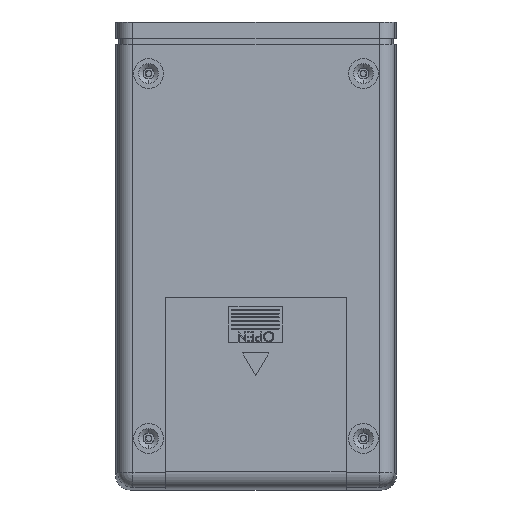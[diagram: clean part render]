
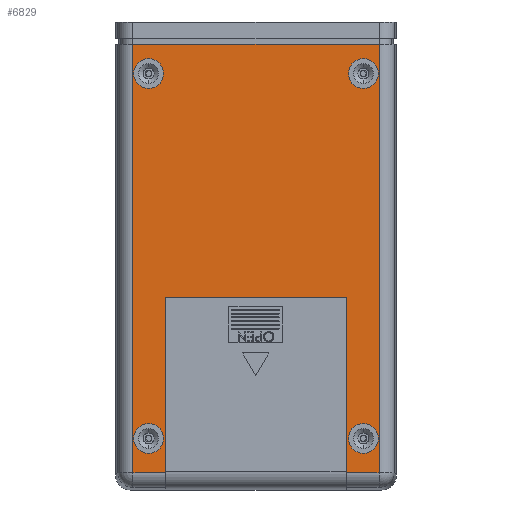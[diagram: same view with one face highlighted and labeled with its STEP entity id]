
A CAD part, front view. The second image highlights one B-rep face of the part: STEP entity #6829.
In plain terms, the highlighted planar face has unit normal (0, -1, 0).
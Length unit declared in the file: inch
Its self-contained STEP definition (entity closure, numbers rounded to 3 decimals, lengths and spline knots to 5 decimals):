
#403 = LINE ( 'NONE', #538, #37624 ) ;
#455 = EDGE_LOOP ( 'NONE', ( #26624, #34411 ) ) ;
#530 = LINE ( 'NONE', #3266, #22742 ) ;
#538 = CARTESIAN_POINT ( 'NONE',  ( 1.8202, -0.655, -2.87519 ) ) ;
#751 = CIRCLE ( 'NONE', #26159, 0.198 ) ;
#1097 = VERTEX_POINT ( 'NONE', #7915 ) ;
#1346 = CARTESIAN_POINT ( 'NONE',  ( 1.204, -0.655, -0.5455 ) ) ;
#1839 = DIRECTION ( 'NONE',  ( 0., 0., -1. ) ) ;
#1966 = EDGE_CURVE ( 'NONE', #26583, #17101, #530, .T. ) ;
#2126 = CIRCLE ( 'NONE', #20929, 0.198 ) ;
#2219 = ORIENTED_EDGE ( 'NONE', *, *, #11383, .F. ) ;
#2323 = DIRECTION ( 'NONE',  ( 0., 0., -1. ) ) ;
#2422 = LINE ( 'NONE', #12318, #25398 ) ;
#2562 = CARTESIAN_POINT ( 'NONE',  ( 1.4265, -0.655, -2.621 ) ) ;
#2575 = EDGE_CURVE ( 'NONE', #24893, #6812, #2422, .T. ) ;
#2729 = ORIENTED_EDGE ( 'NONE', *, *, #27944, .F. ) ;
#3220 = ORIENTED_EDGE ( 'NONE', *, *, #2575, .F. ) ;
#3266 = CARTESIAN_POINT ( 'NONE',  ( -1.63369, -0.655, 2.812 ) ) ;
#3711 = DIRECTION ( 'NONE',  ( 1., 0., 0. ) ) ;
#3802 = PLANE ( 'NONE',  #12375 ) ;
#3920 = EDGE_CURVE ( 'NONE', #6812, #18558, #22851, .T. ) ;
#4034 = DIRECTION ( 'NONE',  ( 0., -1., 0. ) ) ;
#4108 = EDGE_CURVE ( 'NONE', #11769, #34773, #32987, .T. ) ;
#4571 = EDGE_CURVE ( 'NONE', #26583, #9744, #25941, .T. ) ;
#4829 = FACE_OUTER_BOUND ( 'NONE', #15930, .T. ) ;
#6245 = LINE ( 'NONE', #34057, #36283 ) ;
#6364 = ORIENTED_EDGE ( 'NONE', *, *, #11255, .T. ) ;
#6526 = EDGE_CURVE ( 'NONE', #12181, #1097, #34484, .T. ) ;
#6590 = EDGE_CURVE ( 'NONE', #17884, #6621, #8660, .T. ) ;
#6621 = VERTEX_POINT ( 'NONE', #2562 ) ;
#6812 = VERTEX_POINT ( 'NONE', #32809 ) ;
#6829 = ADVANCED_FACE ( 'NONE', ( #12988, #29304, #35863, #20804, #4829 ), #3802, .F. ) ;
#6947 = AXIS2_PLACEMENT_3D ( 'NONE', #29055, #11650, #31874 ) ;
#7385 = DIRECTION ( 'NONE',  ( 0., -1., 0. ) ) ;
#7827 = DIRECTION ( 'NONE',  ( 0., 1., 0. ) ) ;
#7915 = CARTESIAN_POINT ( 'NONE',  ( -1.4265, -0.655, 2.621 ) ) ;
#8660 = CIRCLE ( 'NONE', #6947, 0.198 ) ;
#9131 = LINE ( 'NONE', #33130, #18906 ) ;
#9502 = VERTEX_POINT ( 'NONE', #37593 ) ;
#9744 = VERTEX_POINT ( 'NONE', #22658 ) ;
#10578 = CARTESIAN_POINT ( 'NONE',  ( -1.4265, -0.655, 2.225 ) ) ;
#10764 = ORIENTED_EDGE ( 'NONE', *, *, #3920, .F. ) ;
#11255 = EDGE_CURVE ( 'NONE', #16661, #24240, #403, .T. ) ;
#11383 = EDGE_CURVE ( 'NONE', #16661, #24893, #18036, .T. ) ;
#11650 = DIRECTION ( 'NONE',  ( 0., 1., 0. ) ) ;
#11688 = CARTESIAN_POINT ( 'NONE',  ( -1.204, -0.655, -2.87519 ) ) ;
#11716 = EDGE_CURVE ( 'NONE', #24240, #17101, #9131, .T. ) ;
#11769 = VERTEX_POINT ( 'NONE', #19191 ) ;
#11846 = CARTESIAN_POINT ( 'NONE',  ( 1.4265, -0.655, 2.225 ) ) ;
#12181 = VERTEX_POINT ( 'NONE', #10578 ) ;
#12318 = CARTESIAN_POINT ( 'NONE',  ( 1.204, -0.655, -0.5455 ) ) ;
#12375 = AXIS2_PLACEMENT_3D ( 'NONE', #16040, #36007, #18968 ) ;
#12988 = FACE_BOUND ( 'NONE', #18897, .T. ) ;
#14299 = AXIS2_PLACEMENT_3D ( 'NONE', #22029, #4034, #24930 ) ;
#14655 = CARTESIAN_POINT ( 'NONE',  ( 1.204, -0.655, -2.87519 ) ) ;
#15287 = DIRECTION ( 'NONE',  ( -1., 0., 0. ) ) ;
#15768 = EDGE_CURVE ( 'NONE', #6621, #17884, #29143, .T. ) ;
#15930 = EDGE_LOOP ( 'NONE', ( #3220, #2219, #6364, #18402, #31779, #21224, #28297, #10764 ) ) ;
#15997 = DIRECTION ( 'NONE',  ( 0., 0., 1. ) ) ;
#16040 = CARTESIAN_POINT ( 'NONE',  ( -1.866, -0.655, 3.1075 ) ) ;
#16661 = VERTEX_POINT ( 'NONE', #14655 ) ;
#17015 = ORIENTED_EDGE ( 'NONE', *, *, #33916, .F. ) ;
#17101 = VERTEX_POINT ( 'NONE', #37351 ) ;
#17215 = DIRECTION ( 'NONE',  ( 0., -1., 0. ) ) ;
#17884 = VERTEX_POINT ( 'NONE', #21611 ) ;
#18036 = LINE ( 'NONE', #1346, #24882 ) ;
#18173 = DIRECTION ( 'NONE',  ( 0., 1., 0. ) ) ;
#18402 = ORIENTED_EDGE ( 'NONE', *, *, #11716, .T. ) ;
#18558 = VERTEX_POINT ( 'NONE', #11688 ) ;
#18897 = EDGE_LOOP ( 'NONE', ( #17015, #2729 ) ) ;
#18906 = VECTOR ( 'NONE', #15997, 39.37008 ) ;
#18968 = DIRECTION ( 'NONE',  ( 0., 0., 1. ) ) ;
#19124 = VECTOR ( 'NONE', #33834, 39.37008 ) ;
#19191 = CARTESIAN_POINT ( 'NONE',  ( 1.4265, -0.655, 2.621 ) ) ;
#20004 = DIRECTION ( 'NONE',  ( 0., 1., 0. ) ) ;
#20438 = AXIS2_PLACEMENT_3D ( 'NONE', #25578, #7827, #28397 ) ;
#20459 = DIRECTION ( 'NONE',  ( 0., -1., 0. ) ) ;
#20804 = FACE_BOUND ( 'NONE', #21704, .T. ) ;
#20929 = AXIS2_PLACEMENT_3D ( 'NONE', #36979, #20004, #1839 ) ;
#21191 = DIRECTION ( 'NONE',  ( 1., 0., 0. ) ) ;
#21224 = ORIENTED_EDGE ( 'NONE', *, *, #4571, .T. ) ;
#21611 = CARTESIAN_POINT ( 'NONE',  ( 1.4265, -0.655, -2.225 ) ) ;
#21704 = EDGE_LOOP ( 'NONE', ( #26705, #31083 ) ) ;
#22029 = CARTESIAN_POINT ( 'NONE',  ( -1.4265, -0.655, 2.423 ) ) ;
#22238 = DIRECTION ( 'NONE',  ( 0., 0., -1. ) ) ;
#22527 = CARTESIAN_POINT ( 'NONE',  ( 1.204, -0.655, -0.5455 ) ) ;
#22658 = CARTESIAN_POINT ( 'NONE',  ( -1.63369, -0.655, -2.87519 ) ) ;
#22742 = VECTOR ( 'NONE', #21191, 39.37008 ) ;
#22851 = LINE ( 'NONE', #33578, #28655 ) ;
#23532 = ORIENTED_EDGE ( 'NONE', *, *, #15768, .T. ) ;
#24240 = VERTEX_POINT ( 'NONE', #34011 ) ;
#24283 = EDGE_CURVE ( 'NONE', #34773, #11769, #2126, .T. ) ;
#24882 = VECTOR ( 'NONE', #31022, 39.37008 ) ;
#24893 = VERTEX_POINT ( 'NONE', #22527 ) ;
#24930 = DIRECTION ( 'NONE',  ( 0., 0., -1. ) ) ;
#25150 = CARTESIAN_POINT ( 'NONE',  ( -1.4265, -0.655, -2.423 ) ) ;
#25222 = CARTESIAN_POINT ( 'NONE',  ( -1.63369, -0.655, 2.812 ) ) ;
#25398 = VECTOR ( 'NONE', #15287, 39.37008 ) ;
#25526 = VERTEX_POINT ( 'NONE', #30194 ) ;
#25578 = CARTESIAN_POINT ( 'NONE',  ( 1.4265, -0.655, 2.423 ) ) ;
#25900 = ORIENTED_EDGE ( 'NONE', *, *, #6590, .T. ) ;
#25941 = LINE ( 'NONE', #36557, #19124 ) ;
#26159 = AXIS2_PLACEMENT_3D ( 'NONE', #37418, #20459, #2323 ) ;
#26465 = CIRCLE ( 'NONE', #14299, 0.198 ) ;
#26583 = VERTEX_POINT ( 'NONE', #25222 ) ;
#26624 = ORIENTED_EDGE ( 'NONE', *, *, #6526, .F. ) ;
#26705 = ORIENTED_EDGE ( 'NONE', *, *, #24283, .T. ) ;
#27944 = EDGE_CURVE ( 'NONE', #25526, #9502, #36871, .T. ) ;
#27980 = DIRECTION ( 'NONE',  ( 0., 0., -1. ) ) ;
#28162 = AXIS2_PLACEMENT_3D ( 'NONE', #25150, #7385, #27980 ) ;
#28297 = ORIENTED_EDGE ( 'NONE', *, *, #31564, .T. ) ;
#28397 = DIRECTION ( 'NONE',  ( 0., 0., -1. ) ) ;
#28655 = VECTOR ( 'NONE', #22238, 39.37008 ) ;
#29055 = CARTESIAN_POINT ( 'NONE',  ( 1.4265, -0.655, -2.423 ) ) ;
#29143 = CIRCLE ( 'NONE', #35001, 0.198 ) ;
#29304 = FACE_BOUND ( 'NONE', #30377, .T. ) ;
#30194 = CARTESIAN_POINT ( 'NONE',  ( -1.4265, -0.655, -2.225 ) ) ;
#30377 = EDGE_LOOP ( 'NONE', ( #23532, #25900 ) ) ;
#31022 = DIRECTION ( 'NONE',  ( 0., 0., 1. ) ) ;
#31083 = ORIENTED_EDGE ( 'NONE', *, *, #4108, .T. ) ;
#31564 = EDGE_CURVE ( 'NONE', #9744, #18558, #6245, .T. ) ;
#31779 = ORIENTED_EDGE ( 'NONE', *, *, #1966, .F. ) ;
#31874 = DIRECTION ( 'NONE',  ( 0., 0., -1. ) ) ;
#32809 = CARTESIAN_POINT ( 'NONE',  ( -1.204, -0.655, -0.5455 ) ) ;
#32987 = CIRCLE ( 'NONE', #20438, 0.198 ) ;
#33130 = CARTESIAN_POINT ( 'NONE',  ( 1.63369, -0.655, 3.1075 ) ) ;
#33578 = CARTESIAN_POINT ( 'NONE',  ( -1.204, -0.655, -0.5455 ) ) ;
#33834 = DIRECTION ( 'NONE',  ( 0., 0., -1. ) ) ;
#33916 = EDGE_CURVE ( 'NONE', #9502, #25526, #751, .T. ) ;
#34011 = CARTESIAN_POINT ( 'NONE',  ( 1.63369, -0.655, -2.87519 ) ) ;
#34057 = CARTESIAN_POINT ( 'NONE',  ( 1.8202, -0.655, -2.87519 ) ) ;
#34169 = DIRECTION ( 'NONE',  ( 1., 0., 0. ) ) ;
#34272 = CARTESIAN_POINT ( 'NONE',  ( -1.4265, -0.655, 2.423 ) ) ;
#34411 = ORIENTED_EDGE ( 'NONE', *, *, #36218, .F. ) ;
#34484 = CIRCLE ( 'NONE', #34968, 0.198 ) ;
#34773 = VERTEX_POINT ( 'NONE', #11846 ) ;
#34968 = AXIS2_PLACEMENT_3D ( 'NONE', #34272, #17215, #37138 ) ;
#35001 = AXIS2_PLACEMENT_3D ( 'NONE', #35223, #18173, #38046 ) ;
#35223 = CARTESIAN_POINT ( 'NONE',  ( 1.4265, -0.655, -2.423 ) ) ;
#35863 = FACE_BOUND ( 'NONE', #455, .T. ) ;
#36007 = DIRECTION ( 'NONE',  ( 0., 1., 0. ) ) ;
#36218 = EDGE_CURVE ( 'NONE', #1097, #12181, #26465, .T. ) ;
#36283 = VECTOR ( 'NONE', #34169, 39.37008 ) ;
#36557 = CARTESIAN_POINT ( 'NONE',  ( -1.63369, -0.655, -3.0617 ) ) ;
#36871 = CIRCLE ( 'NONE', #28162, 0.198 ) ;
#36979 = CARTESIAN_POINT ( 'NONE',  ( 1.4265, -0.655, 2.423 ) ) ;
#37138 = DIRECTION ( 'NONE',  ( 0., 0., -1. ) ) ;
#37351 = CARTESIAN_POINT ( 'NONE',  ( 1.63369, -0.655, 2.812 ) ) ;
#37418 = CARTESIAN_POINT ( 'NONE',  ( -1.4265, -0.655, -2.423 ) ) ;
#37593 = CARTESIAN_POINT ( 'NONE',  ( -1.4265, -0.655, -2.621 ) ) ;
#37624 = VECTOR ( 'NONE', #3711, 39.37008 ) ;
#38046 = DIRECTION ( 'NONE',  ( 0., 0., -1. ) ) ;
